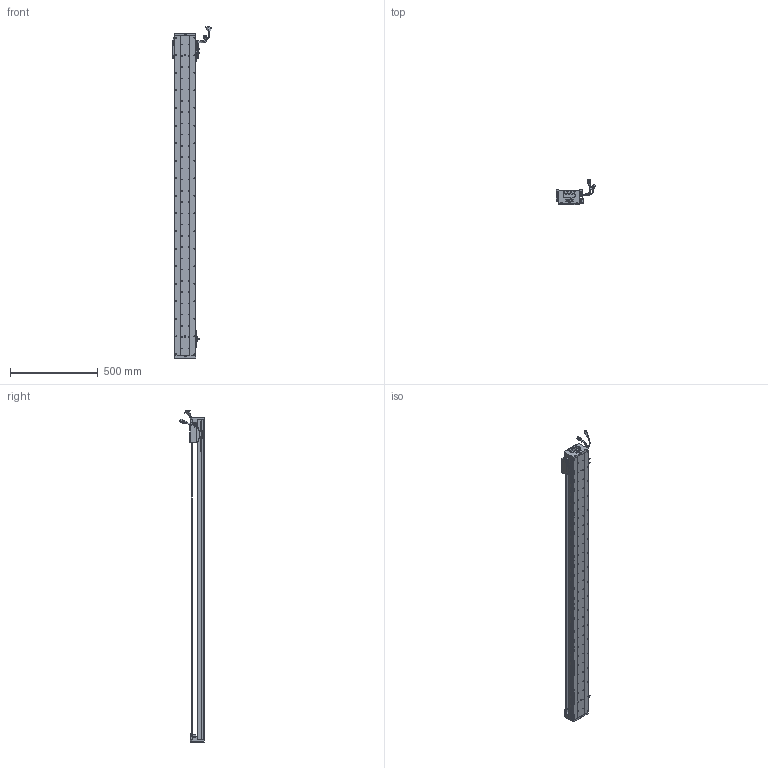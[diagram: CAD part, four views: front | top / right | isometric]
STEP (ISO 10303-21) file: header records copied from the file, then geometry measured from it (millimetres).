
FILE_DESCRIPTION (( 'STEP AP203' ), '1' );
FILE_NAME ('Z1-RY120D-1-L500-B-K.SLDASM_1650.step', '2021-05-17T03:48:20', ( '盈信电脑' ), ( '东莞市道滘镇水果街19号' ), 'SwSTEP 2.0', 'SolidWorks 2016', '' );
FILE_SCHEMA (( 'CONFIG_CONTROL_DESIGN' ));
Length unit declared in the file: millimetre
Products named in the file (37): SEAL-Part-1; Z-120詩湍傷裔啣; Z1-RY120-500-倰第菁釱_1650; SCALE-Part-2; COVER-Part-1; PSLH080_PSLF2; SCREW-M1.6; 榋妏寠巭燃_暯_M2_2; LABEL-Part-1; 120-Z-臏賑輸盄裔(21遴); PBU_SHEET; HARNESS; LABEL; 140雄赽晤鎢ん堤盄; SEAL; Z1-RY120-L500詩湍100mm遵_1650; HOLDER0; SCALE; Z-RY120D詩湍狟揤裔; Z-RY120D詩湍奻揤裔; COVER; Z1-RY120D-1-L500-B-K.SLDASM_1650; SHIELDPLATE; RY100FB-遵嫖萇覜茼え; 080黍杅芛假蚾釱21遴; SCREW-M1.6-3; 140蚥薯蝶輸; SCREW-M1.7-1; Z1-RY120铝滑块（21款）; HARNESS-Part-2; 覜茼ん672; SCREW-M1.6-1; SCREW-M1.7; SCALE-Part-1; SCREW-M1.6-2; HARNESS-Part-1; 672嫖萇羲壽假蚾釱
Assembly tree (43 placements, depth 4):
  Z1-RY120D-1-L500-B-K.SLDASM_1650
    Z1-RY120-500-倰第菁釱_1650
    覜茼ん672  x3
    672嫖萇羲壽假蚾釱  x2
    Z1-RY120铝滑块（21款）
    PSLH080_PSLF2
      SCALE
        SCALE-Part-1
        SCALE-Part-2
      HARNESS
        HARNESS-Part-1
        HARNESS-Part-2
      LABEL
        LABEL-Part-1
      COVER
        COVER-Part-1
      SEAL
        SEAL-Part-1
      榋妏寠巭燃_暯_M2_2
      SHIELDPLATE
      SCREW-M1.7
      SCREW-M1.7-1
      PBU_SHEET
      SCREW-M1.6
      SCREW-M1.6-1
      SCREW-M1.6-2
      SCREW-M1.6-3
      HOLDER0
    080黍杅芛假蚾釱21遴
    120-Z-臏賑輸盄裔(21遴)
    140雄赽晤鎢ん堤盄
    140蚥薯蝶輸  x2
    RY100FB-遵嫖萇覜茼え
    Z-120詩湍傷裔啣  x2
    Z-RY120D詩湍奻揤裔  x2
    Z-RY120D詩湍狟揤裔  x2
    Z1-RY120-L500詩湍100mm遵_1650
Bounding box: 222.86 x 140.94 x 1888.99 mm (x, y, z)
Volume: 4359560.4 mm3; surface area: 1555601.2 mm2
Topology: 38 solids, 38 shells, 3209 faces, 8982 edges, 5676 vertices
Faces by surface type: cylinder 1586, plane 1183, cone 318, torus 69, bspline 53
Entity records: 103579 total; most frequent: CARTESIAN_POINT 30576, ORIENTED_EDGE 14852, DIRECTION 13848, EDGE_CURVE 7426, AXIS2_PLACEMENT_3D 5074, VERTEX_POINT 4796, VECTOR 3700, LINE 3700
